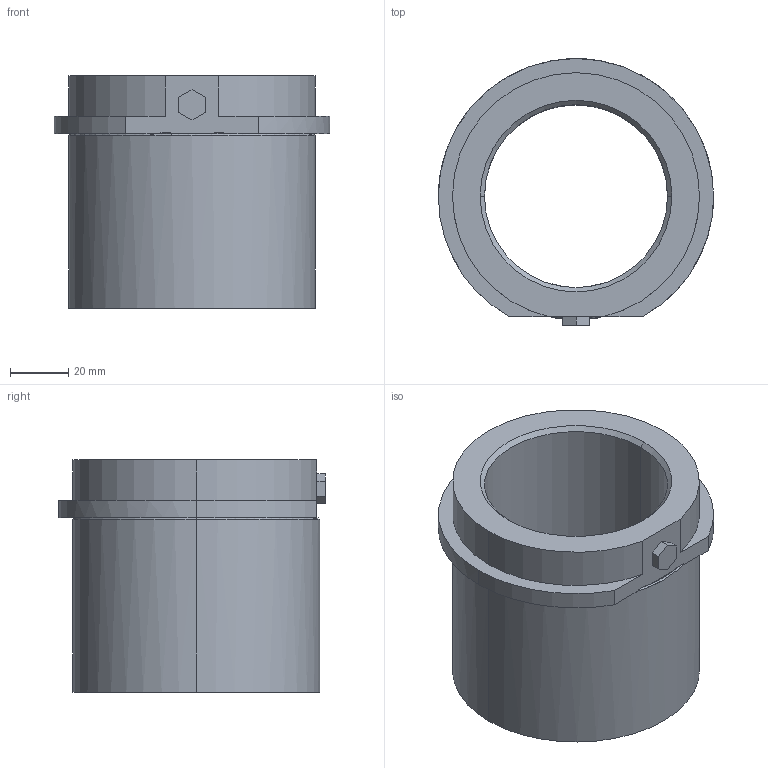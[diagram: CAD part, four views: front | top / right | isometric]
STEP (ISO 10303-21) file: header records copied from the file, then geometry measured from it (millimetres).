
FILE_DESCRIPTION(('CATIA V5 STEP Exchange'),'2;1');
FILE_NAME('C:\Users\Utente\Desktop\IO LAVORO\3D X SITO CF\X SITO\740\740-63.stp','2021-01-18T19:28:35+00:00',('none'),('none'),'CATIA Version 5 Release 20 GA (IN-10)','CATIA V5 STEP AP203','none');
FILE_SCHEMA(('CONFIG_CONTROL_DESIGN'));
Length unit declared in the file: millimetre
Products named in the file (1): 740-63
Assembly tree (1 placements, depth 2):
  740-63
    #58
Bounding box: 94.8 x 91.9 x 80 mm (x, y, z)
Volume: 210845.2 mm3; surface area: 45182 mm2
Topology: 1 solids, 1 shells, 35 faces, 88 edges, 57 vertices
Faces by surface type: plane 14, cylinder 12, torus 5, cone 4
Entity records: 1349 total; most frequent: CARTESIAN_POINT 487, ORIENTED_EDGE 176, DIRECTION 139, EDGE_CURVE 88, AXIS2_PLACEMENT_3D 63, VERTEX_POINT 57, VECTOR 42, LINE 42
